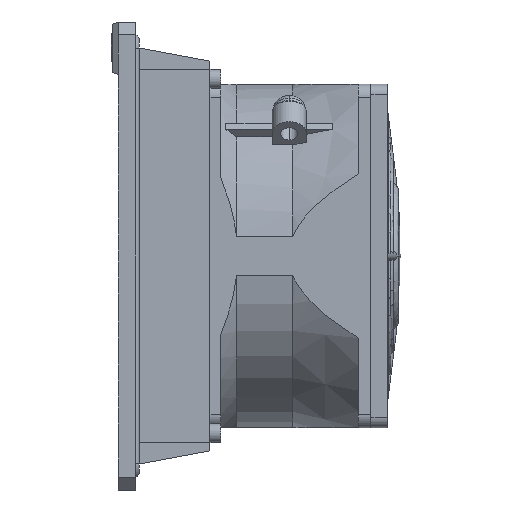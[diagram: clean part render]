
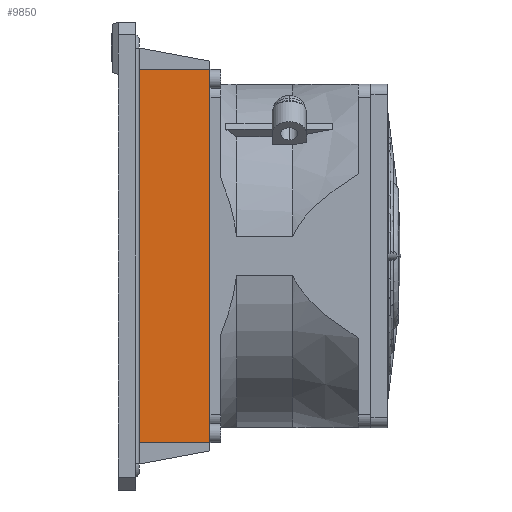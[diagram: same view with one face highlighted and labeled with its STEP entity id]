
A CAD part, left-side view. The second image highlights one B-rep face of the part: STEP entity #9850.
In plain terms, the highlighted planar face has unit normal (-1, 0, 0).
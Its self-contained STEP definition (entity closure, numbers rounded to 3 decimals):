
#3104 = CARTESIAN_POINT ( 'NONE',  ( -45., 17.75, -43.5 ) ) ;
#9850 = ADVANCED_FACE ( 'NONE', ( #56868 ), #16438, .T. ) ;
#11650 = LINE ( 'NONE', #23298, #21259 ) ;
#11670 = VECTOR ( 'NONE', #29146, 1000. ) ;
#14436 = ORIENTED_EDGE ( 'NONE', *, *, #49083, .F. ) ;
#16438 = PLANE ( 'NONE',  #37793 ) ;
#21259 = VECTOR ( 'NONE', #37392, 1000. ) ;
#22806 = DIRECTION ( 'NONE',  ( 0., 0., -1. ) ) ;
#23298 = CARTESIAN_POINT ( 'NONE',  ( -45., 34.48, 43.5 ) ) ;
#24177 = VERTEX_POINT ( 'NONE', #53427 ) ;
#24278 = LINE ( 'NONE', #46995, #11670 ) ;
#24781 = CARTESIAN_POINT ( 'NONE',  ( -45., 17.75, 45. ) ) ;
#25971 = DIRECTION ( 'NONE',  ( -1., 0., 0. ) ) ;
#26743 = VERTEX_POINT ( 'NONE', #3104 ) ;
#27061 = LINE ( 'NONE', #24781, #50850 ) ;
#27204 = LINE ( 'NONE', #51259, #41332 ) ;
#29146 = DIRECTION ( 'NONE',  ( 0., -1., 0. ) ) ;
#30582 = VERTEX_POINT ( 'NONE', #44587 ) ;
#31901 = ORIENTED_EDGE ( 'NONE', *, *, #42229, .F. ) ;
#35864 = ORIENTED_EDGE ( 'NONE', *, *, #50917, .T. ) ;
#37059 = CARTESIAN_POINT ( 'NONE',  ( -45., 17.75, 43.5 ) ) ;
#37392 = DIRECTION ( 'NONE',  ( 0., -1., 0. ) ) ;
#37793 = AXIS2_PLACEMENT_3D ( 'NONE', #49684, #25971, #59250 ) ;
#39776 = ORIENTED_EDGE ( 'NONE', *, *, #41521, .T. ) ;
#41332 = VECTOR ( 'NONE', #22806, 1000. ) ;
#41521 = EDGE_CURVE ( 'NONE', #26743, #30582, #24278, .T. ) ;
#42229 = EDGE_CURVE ( 'NONE', #24177, #30582, #27204, .T. ) ;
#43264 = VERTEX_POINT ( 'NONE', #37059 ) ;
#44587 = CARTESIAN_POINT ( 'NONE',  ( -45., 0., -43.5 ) ) ;
#46995 = CARTESIAN_POINT ( 'NONE',  ( -45., 34.48, -43.5 ) ) ;
#49083 = EDGE_CURVE ( 'NONE', #43264, #24177, #11650, .T. ) ;
#49684 = CARTESIAN_POINT ( 'NONE',  ( -45., 168.242, 45. ) ) ;
#50850 = VECTOR ( 'NONE', #53855, 1000. ) ;
#50889 = EDGE_LOOP ( 'NONE', ( #39776, #31901, #14436, #35864 ) ) ;
#50917 = EDGE_CURVE ( 'NONE', #43264, #26743, #27061, .T. ) ;
#51259 = CARTESIAN_POINT ( 'NONE',  ( -45., 0., 45. ) ) ;
#53427 = CARTESIAN_POINT ( 'NONE',  ( -45., 0., 43.5 ) ) ;
#53855 = DIRECTION ( 'NONE',  ( 0., 0., -1. ) ) ;
#56868 = FACE_OUTER_BOUND ( 'NONE', #50889, .T. ) ;
#59250 = DIRECTION ( 'NONE',  ( 0., 0., 1. ) ) ;
